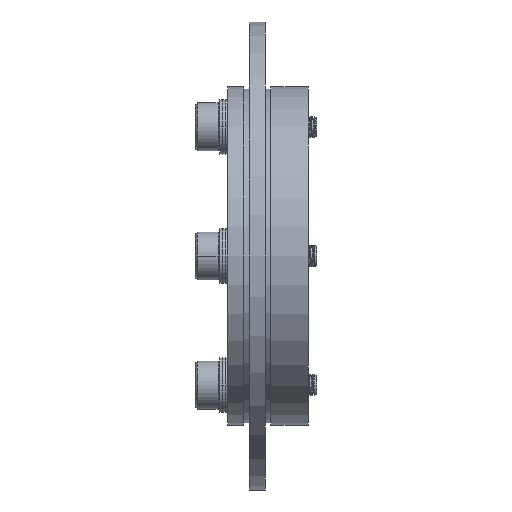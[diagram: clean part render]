
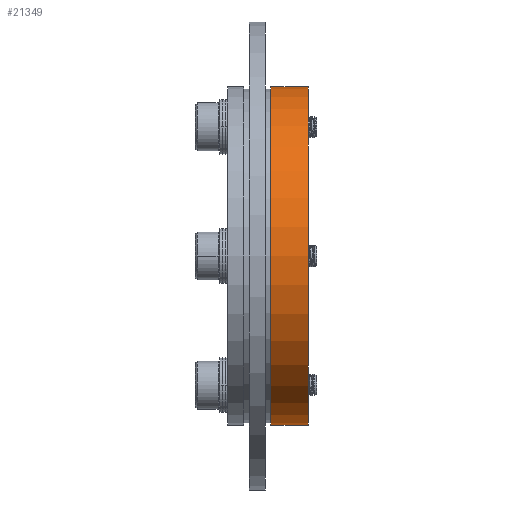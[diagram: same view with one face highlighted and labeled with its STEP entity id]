
A CAD part, left-side view. The second image highlights one B-rep face of the part: STEP entity #21349.
In plain terms, the highlighted cylindrical face has radius 31.5 mm (diameter 63 mm), a partial arc.
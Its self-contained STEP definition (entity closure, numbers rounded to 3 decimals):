
#70 = EDGE_CURVE ( 'NONE', #43010, #45697, #2536, .T. ) ;
#812 = CARTESIAN_POINT ( 'NONE',  ( 43.53, -1., -75. ) ) ;
#1339 = CARTESIAN_POINT ( 'NONE',  ( 43.53, -1., -43.5 ) ) ;
#2536 = LINE ( 'NONE', #17422, #29314 ) ;
#3274 = VECTOR ( 'NONE', #44793, 1000. ) ;
#4943 = DIRECTION ( 'NONE',  ( 0., -1., 0. ) ) ;
#5192 = DIRECTION ( 'NONE',  ( 0., 0., -1. ) ) ;
#5909 = CARTESIAN_POINT ( 'NONE',  ( 43.53, -8., -75. ) ) ;
#8420 = ORIENTED_EDGE ( 'NONE', *, *, #41994, .T. ) ;
#8562 = CARTESIAN_POINT ( 'NONE',  ( 43.53, -1., -12. ) ) ;
#8636 = DIRECTION ( 'NONE',  ( 0., 0., -1. ) ) ;
#8839 = EDGE_CURVE ( 'NONE', #43010, #27053, #46012, .T. ) ;
#9507 = AXIS2_PLACEMENT_3D ( 'NONE', #1339, #23786, #8636 ) ;
#11579 = CARTESIAN_POINT ( 'NONE',  ( 43.53, -5., -75. ) ) ;
#16228 = EDGE_LOOP ( 'NONE', ( #19968, #24336, #36213, #8420 ) ) ;
#17422 = CARTESIAN_POINT ( 'NONE',  ( 43.53, -5., -12. ) ) ;
#19968 = ORIENTED_EDGE ( 'NONE', *, *, #22986, .F. ) ;
#20017 = CARTESIAN_POINT ( 'NONE',  ( 43.53, -8., -12. ) ) ;
#20306 = CARTESIAN_POINT ( 'NONE',  ( 43.53, -8., -43.5 ) ) ;
#20366 = AXIS2_PLACEMENT_3D ( 'NONE', #25497, #37620, #21613 ) ;
#21349 = ADVANCED_FACE ( 'NONE', ( #26396 ), #22493, .T. ) ;
#21613 = DIRECTION ( 'NONE',  ( 0., 0., 1. ) ) ;
#22076 = LINE ( 'NONE', #11579, #3274 ) ;
#22493 = CYLINDRICAL_SURFACE ( 'NONE', #20366, 31.5 ) ;
#22986 = EDGE_CURVE ( 'NONE', #27053, #35968, #22076, .T. ) ;
#23786 = DIRECTION ( 'NONE',  ( 0., -1., 0. ) ) ;
#24336 = ORIENTED_EDGE ( 'NONE', *, *, #8839, .F. ) ;
#25497 = CARTESIAN_POINT ( 'NONE',  ( 43.53, -5., -43.5 ) ) ;
#26396 = FACE_OUTER_BOUND ( 'NONE', #16228, .T. ) ;
#27053 = VERTEX_POINT ( 'NONE', #5909 ) ;
#29314 = VECTOR ( 'NONE', #30093, 1000. ) ;
#30093 = DIRECTION ( 'NONE',  ( 0., 1., 0. ) ) ;
#33636 = CIRCLE ( 'NONE', #9507, 31.5 ) ;
#35968 = VERTEX_POINT ( 'NONE', #812 ) ;
#36213 = ORIENTED_EDGE ( 'NONE', *, *, #70, .T. ) ;
#37620 = DIRECTION ( 'NONE',  ( 0., 1., 0. ) ) ;
#41994 = EDGE_CURVE ( 'NONE', #45697, #35968, #33636, .T. ) ;
#43010 = VERTEX_POINT ( 'NONE', #20017 ) ;
#44793 = DIRECTION ( 'NONE',  ( 0., 1., 0. ) ) ;
#45697 = VERTEX_POINT ( 'NONE', #8562 ) ;
#46012 = CIRCLE ( 'NONE', #47578, 31.5 ) ;
#47578 = AXIS2_PLACEMENT_3D ( 'NONE', #20306, #4943, #5192 ) ;
